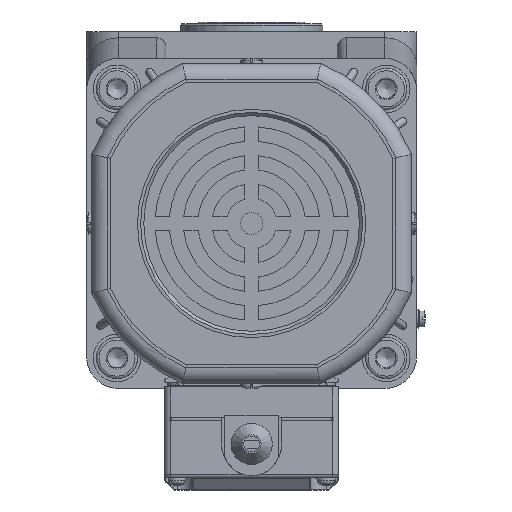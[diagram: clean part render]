
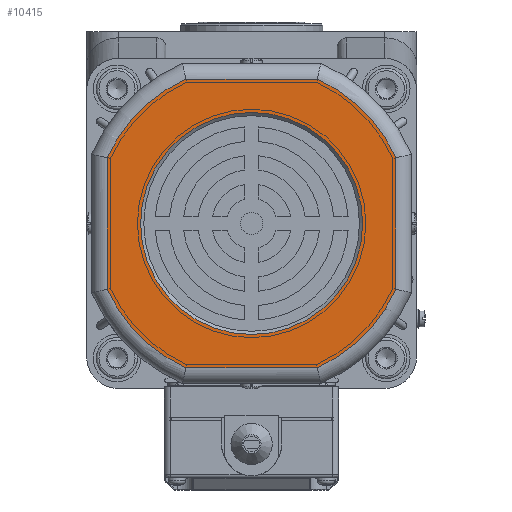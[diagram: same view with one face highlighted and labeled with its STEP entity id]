
A CAD part, left-side view. The second image highlights one B-rep face of the part: STEP entity #10415.
In plain terms, the highlighted planar face has unit normal (-1, 0, 0).
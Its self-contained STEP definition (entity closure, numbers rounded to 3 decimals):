
#1092=PLANE('',#41142);
#5429=LINE('',#58847,#7952);
#5430=LINE('',#58852,#7953);
#5431=LINE('',#58856,#7954);
#5432=LINE('',#58860,#7955);
#7952=VECTOR('',#46914,1.);
#7953=VECTOR('',#46917,1.);
#7954=VECTOR('',#46920,1.);
#7955=VECTOR('',#46923,1.);
#10415=ADVANCED_FACE('',(#13363,#13364),#1092,.F.);
#13363=FACE_BOUND('',#14701,.T.);
#13364=FACE_BOUND('',#14702,.T.);
#14701=EDGE_LOOP('',(#19127,#19128,#19129,#19130,#19131,#19132,#19133,#19134));
#14702=EDGE_LOOP('',(#19135));
#19127=ORIENTED_EDGE('',*,*,#33322,.T.);
#19128=ORIENTED_EDGE('',*,*,#33323,.T.);
#19129=ORIENTED_EDGE('',*,*,#33324,.T.);
#19130=ORIENTED_EDGE('',*,*,#33325,.T.);
#19131=ORIENTED_EDGE('',*,*,#33326,.T.);
#19132=ORIENTED_EDGE('',*,*,#33327,.T.);
#19133=ORIENTED_EDGE('',*,*,#33328,.T.);
#19134=ORIENTED_EDGE('',*,*,#33329,.T.);
#19135=ORIENTED_EDGE('',*,*,#33330,.T.);
#29186=VERTEX_POINT('',#58848);
#29187=VERTEX_POINT('',#58849);
#29188=VERTEX_POINT('',#58851);
#29189=VERTEX_POINT('',#58853);
#29190=VERTEX_POINT('',#58855);
#29191=VERTEX_POINT('',#58857);
#29192=VERTEX_POINT('',#58859);
#29193=VERTEX_POINT('',#58861);
#29194=VERTEX_POINT('',#58864);
#33322=EDGE_CURVE('',#29186,#29187,#5429,.T.);
#33323=EDGE_CURVE('',#29187,#29188,#38616,.T.);
#33324=EDGE_CURVE('',#29188,#29189,#5430,.T.);
#33325=EDGE_CURVE('',#29189,#29190,#38617,.T.);
#33326=EDGE_CURVE('',#29190,#29191,#5431,.T.);
#33327=EDGE_CURVE('',#29191,#29192,#38618,.T.);
#33328=EDGE_CURVE('',#29192,#29193,#5432,.T.);
#33329=EDGE_CURVE('',#29193,#29186,#38619,.T.);
#33330=EDGE_CURVE('',#29194,#29194,#38620,.T.);
#38616=CIRCLE('',#41137,50.);
#38617=CIRCLE('',#41138,50.);
#38618=CIRCLE('',#41139,50.);
#38619=CIRCLE('',#41140,50.);
#38620=CIRCLE('',#41141,35.);
#41137=AXIS2_PLACEMENT_3D('',#58850,#46915,#46916);
#41138=AXIS2_PLACEMENT_3D('',#58854,#46918,#46919);
#41139=AXIS2_PLACEMENT_3D('',#58858,#46921,#46922);
#41140=AXIS2_PLACEMENT_3D('',#58862,#46924,#46925);
#41141=AXIS2_PLACEMENT_3D('',#58863,#46926,#46927);
#41142=AXIS2_PLACEMENT_3D('',#58865,#46928,#46929);
#46914=DIRECTION('',(0.,-1.,0.));
#46915=DIRECTION('',(-1.,0.,0.));
#46916=DIRECTION('',(0.,0.,1.));
#46917=DIRECTION('',(0.,0.,1.));
#46918=DIRECTION('',(-1.,0.,0.));
#46919=DIRECTION('',(0.,0.,1.));
#46920=DIRECTION('',(0.,1.,0.));
#46921=DIRECTION('',(-1.,0.,0.));
#46922=DIRECTION('',(0.,0.,1.));
#46923=DIRECTION('',(0.,0.,-1.));
#46924=DIRECTION('',(-1.,0.,0.));
#46925=DIRECTION('',(0.,0.,1.));
#46926=DIRECTION('',(1.,0.,0.));
#46927=DIRECTION('',(0.,-1.,0.));
#46928=DIRECTION('',(1.,0.,0.));
#46929=DIRECTION('',(0.,0.,1.));
#58847=CARTESIAN_POINT('',(-251.8,-142.46,-103.991));
#58848=CARTESIAN_POINT('',(-251.8,-99.941,-103.991));
#58849=CARTESIAN_POINT('',(-251.8,-141.402,-103.991));
#58850=CARTESIAN_POINT('',(-251.8,-120.671,-58.491));
#58851=CARTESIAN_POINT('',(-251.8,-166.171,-79.221));
#58852=CARTESIAN_POINT('',(-251.8,-166.171,-36.702));
#58853=CARTESIAN_POINT('',(-251.8,-166.171,-37.76));
#58854=CARTESIAN_POINT('',(-251.8,-120.671,-58.491));
#58855=CARTESIAN_POINT('',(-251.8,-141.402,-12.991));
#58856=CARTESIAN_POINT('',(-251.8,-98.882,-12.991));
#58857=CARTESIAN_POINT('',(-251.8,-99.941,-12.991));
#58858=CARTESIAN_POINT('',(-251.8,-120.671,-58.491));
#58859=CARTESIAN_POINT('',(-251.8,-75.171,-37.76));
#58860=CARTESIAN_POINT('',(-251.8,-75.171,-80.28));
#58861=CARTESIAN_POINT('',(-251.8,-75.171,-79.221));
#58862=CARTESIAN_POINT('',(-251.8,-120.671,-58.491));
#58863=CARTESIAN_POINT('',(-251.8,-120.671,-58.491));
#58864=CARTESIAN_POINT('',(-251.8,-155.671,-58.491));
#58865=CARTESIAN_POINT('',(-251.8,-120.671,-58.491));
